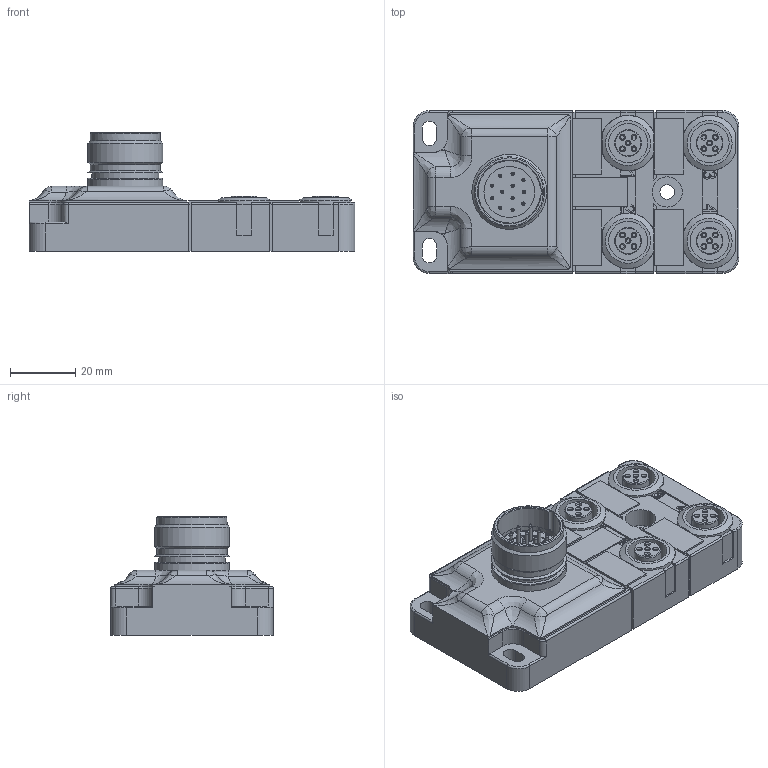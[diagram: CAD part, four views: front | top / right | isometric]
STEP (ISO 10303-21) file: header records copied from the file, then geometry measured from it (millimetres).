
FILE_DESCRIPTION(/* description */ (''),/* implementation_level */ '2;1');
FILE_NAME(/* name */ '3DCAD_MD_7XXP_11_42IO5_13.stp',/* time_stamp */ '2016-11-04T10:54:51+01:00',/* author */ ('CC2'),/* organization */ ('Leuze electronic'),/* preprocessor_version */ 'ST-DEVELOPER v15',/* originating_system */ 'SIEMENS PLM Software NX 8.5',/* authorisation */ '');
FILE_SCHEMA (('AUTOMOTIVE_DESIGN { 1 0 10303 214 3 1 1 1 }'));
Length unit declared in the file: millimetre
Products named in the file (1): 19-102503_00.0
Bounding box: 100 x 50 x 36.5 mm (x, y, z)
Volume: 82362.8 mm3; surface area: 20379.4 mm2
Topology: 1 solids, 1 shells, 413 faces, 1003 edges, 637 vertices
Faces by surface type: plane 198, cylinder 95, bspline 62, cone 44, torus 12, sphere 2
Full cylindrical faces by diameter (mm): 1 x12, 4.5 x1, 8.2 x4, 9.3 x1, 12 x4, 15.6 x1, 20.4 x1, 20.5 x1, 21.5 x2, 23 x3
Entity records: 12900 total; most frequent: CARTESIAN_POINT 3858, ORIENTED_EDGE 1786, DIRECTION 1757, EDGE_CURVE 893, AXIS2_PLACEMENT_3D 633, VERTEX_POINT 631, EDGE_LOOP 568, LINE 491
